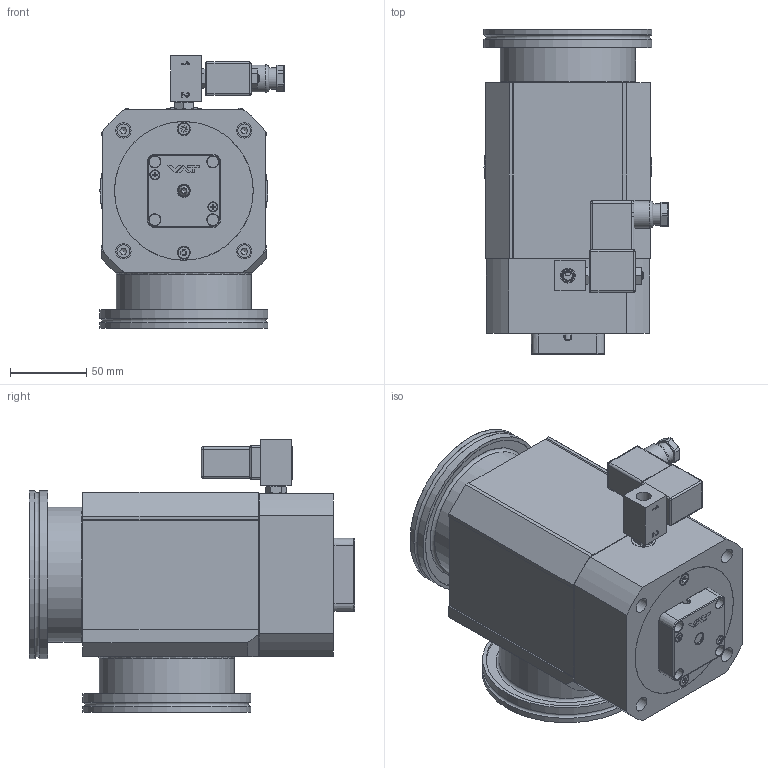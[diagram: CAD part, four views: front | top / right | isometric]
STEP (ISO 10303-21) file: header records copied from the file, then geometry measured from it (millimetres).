
FILE_DESCRIPTION(/* description */ (''),/* implementation_level */ '2;1');
FILE_NAME(/* name */ '1018253456_203.stp',/* time_stamp */ '2019-04-15T12:30:56+02:00',/* author */ (''),/* organization */ (''),/* preprocessor_version */ 'ST-DEVELOPER v16',/* originating_system */ 'SIEMENS PLM Software NX 11.0',/* authorisation */ '');
FILE_SCHEMA (('AP203_CONFIGURATION_CONTROLLED_3D_DESIGN_OF_MECHANICAL_PARTS_AND_ASSEMBLIES_MIM_LF { 1 0 10303 403 2 1 2}'));
Length unit declared in the file: millimetre
Products named in the file (16): 467863; 467864; 233359; 236204_1.1; 326371.1; 368679; 439612; N-6013-443.2; 259415.2; 243267.7; 415266; 900594; 224796.1; n-8501-300_MODELNX-ARRAGMNTArrangement 1; 239983.3; 977614
Assembly tree (20 placements, depth 3):
  977614
    224796.1  x4
    239983.3
      236204_1.1  x2
      233359
    900594
    415266
    243267.7
    259415.2
    N-6013-443.2  x2
    439612
    368679
    326371.1
    n-8501-300_MODELNX-ARRAGMNTArrangement 1
      467864
      467863
Bounding box: 120.75 x 213 x 178.5 mm (x, y, z)
Volume: 1521191.4 mm3; surface area: 433379.3 mm2
Topology: 27 solids, 27 shells, 908 faces, 2209 edges, 1417 vertices
Faces by surface type: plane 516, cylinder 205, cone 87, torus 57, bspline 21, sphere 12, extrusion 10
Full cylindrical faces by diameter (mm): 3 x8, 3.1 x1, 3.3 x2, 4 x3, 4.16 x4, 4.2 x12, 4.5 x2, 4.6 x1, 4.7 x2, 5 x9, 5.5 x4, 5.6 x2, 6 x1, 7 x1, 7.4 x1, 7.5 x2, 8 x1, 8.5 x5, 8.566 x1, 9 x2, 9.728 x2, 10 x4, 10.1 x1, 12 x2, 14 x1, 15.975 x3, 16 x1, 16.5 x2, 18 x1, 18.18 x1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
Entity records: 27036 total; most frequent: CARTESIAN_POINT 5870, DIRECTION 3696, ORIENTED_EDGE 3476, EDGE_CURVE 1738, AXIS2_PLACEMENT_3D 1340, VERTEX_POINT 1242, EDGE_LOOP 1150, VECTOR 1016
